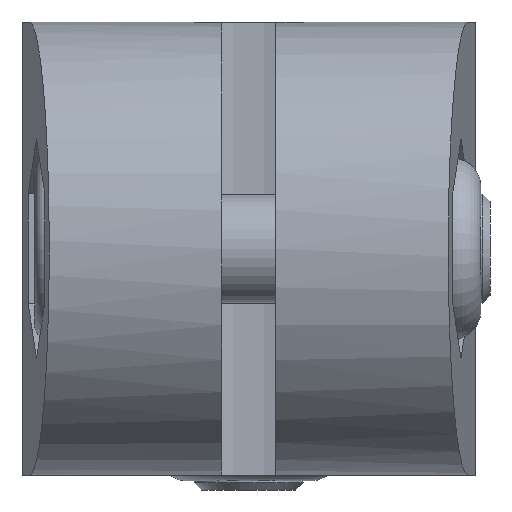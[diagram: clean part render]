
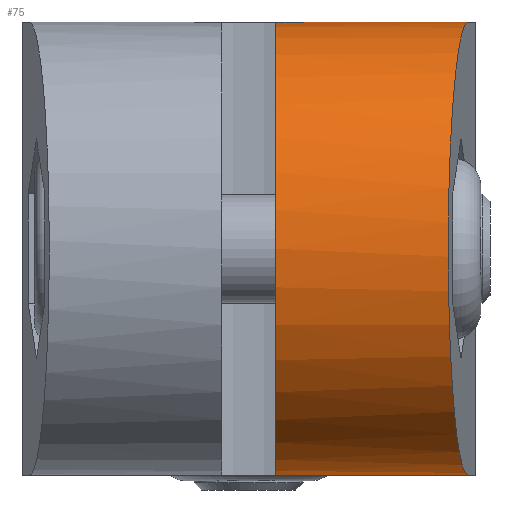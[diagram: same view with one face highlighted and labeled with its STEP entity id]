
A CAD part, left-side view. The second image highlights one B-rep face of the part: STEP entity #75.
In plain terms, the highlighted cylindrical face has radius 12.5 mm (diameter 25 mm), a partial arc.
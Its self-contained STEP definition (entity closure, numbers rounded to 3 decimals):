
#75 = ADVANCED_FACE( '', ( #192 ), #193, .T. );
#192 = FACE_OUTER_BOUND( '', #462, .T. );
#193 = CYLINDRICAL_SURFACE( '', #463, 12.5 );
#462 = EDGE_LOOP( '', ( #732, #733, #734, #735, #736, #737 ) );
#463 = AXIS2_PLACEMENT_3D( '', #738, #739, #740 );
#732 = ORIENTED_EDGE( '', *, *, #1592, .F. );
#733 = ORIENTED_EDGE( '', *, *, #1593, .F. );
#734 = ORIENTED_EDGE( '', *, *, #1594, .T. );
#735 = ORIENTED_EDGE( '', *, *, #1595, .F. );
#736 = ORIENTED_EDGE( '', *, *, #1596, .T. );
#737 = ORIENTED_EDGE( '', *, *, #1597, .T. );
#738 = CARTESIAN_POINT( '', ( -9.5, 12.5, 0. ) );
#739 = DIRECTION( '', ( 0., 1., 0. ) );
#740 = DIRECTION( '', ( 0., 0., -1. ) );
#1592 = EDGE_CURVE( '', #1848, #1849, #1850, .F. );
#1593 = EDGE_CURVE( '', #1851, #1848, #1852, .T. );
#1594 = EDGE_CURVE( '', #1851, #1853, #1854, .T. );
#1595 = EDGE_CURVE( '', #1855, #1853, #1856, .F. );
#1596 = EDGE_CURVE( '', #1855, #1857, #1858, .T. );
#1597 = EDGE_CURVE( '', #1857, #1849, #1859, .T. );
#1848 = VERTEX_POINT( '', #2280 );
#1849 = VERTEX_POINT( '', #2281 );
#1850 = ELLIPSE( '', #2282, 12.548, 12.5 );
#1851 = VERTEX_POINT( '', #2283 );
#1852 = LINE( '', #2284, #2285 );
#1853 = VERTEX_POINT( '', #2286 );
#1854 = B_SPLINE_CURVE_WITH_KNOTS( '', 3, ( #2287, #2288, #2289, #2290 ), .UNSPECIFIED., .F., .F., ( 4, 4 ), ( 0., 0.002 ), .UNSPECIFIED. );
#1855 = VERTEX_POINT( '', #2291 );
#1856 = CIRCLE( '', #2292, 12.5 );
#1857 = VERTEX_POINT( '', #2293 );
#1858 = B_SPLINE_CURVE_WITH_KNOTS( '', 3, ( #2294, #2295, #2296, #2297 ), .UNSPECIFIED., .F., .F., ( 4, 4 ), ( 0., 0.002 ), .UNSPECIFIED. );
#1859 = LINE( '', #2298, #2299 );
#2280 = CARTESIAN_POINT( '', ( -9.5, -12.094, 12.5 ) );
#2281 = CARTESIAN_POINT( '', ( -9.5, -12.094, -12.5 ) );
#2282 = AXIS2_PLACEMENT_3D( '', #2924, #2925, #2926 );
#2283 = CARTESIAN_POINT( '', ( -9.5, -3.106, 12.5 ) );
#2284 = CARTESIAN_POINT( '', ( -9.5, 12.5, 12.5 ) );
#2285 = VECTOR( '', #2927, 1000. );
#2286 = CARTESIAN_POINT( '', ( -9.882, -1.5, 12.494 ) );
#2287 = CARTESIAN_POINT( '', ( -9.5, -3.106, 12.5 ) );
#2288 = CARTESIAN_POINT( '', ( -9.672, -2.582, 12.5 ) );
#2289 = CARTESIAN_POINT( '', ( -9.799, -2.046, 12.497 ) );
#2290 = CARTESIAN_POINT( '', ( -9.882, -1.5, 12.494 ) );
#2291 = CARTESIAN_POINT( '', ( -9.882, -1.5, -12.494 ) );
#2292 = AXIS2_PLACEMENT_3D( '', #2928, #2929, #2930 );
#2293 = CARTESIAN_POINT( '', ( -9.5, -3.106, -12.5 ) );
#2294 = CARTESIAN_POINT( '', ( -9.882, -1.5, -12.494 ) );
#2295 = CARTESIAN_POINT( '', ( -9.799, -2.046, -12.497 ) );
#2296 = CARTESIAN_POINT( '', ( -9.672, -2.582, -12.5 ) );
#2297 = CARTESIAN_POINT( '', ( -9.5, -3.106, -12.5 ) );
#2298 = CARTESIAN_POINT( '', ( -9.5, 12.5, -12.5 ) );
#2299 = VECTOR( '', #2931, 1000. );
#2924 = CARTESIAN_POINT( '', ( -9.5, -12.094, 0. ) );
#2925 = DIRECTION( '', ( 0.087, 0.996, 0. ) );
#2926 = DIRECTION( '', ( 0.996, -0.087, 0. ) );
#2927 = DIRECTION( '', ( 0., -1., 0. ) );
#2928 = CARTESIAN_POINT( '', ( -9.5, -1.5, 0. ) );
#2929 = DIRECTION( '', ( 0., -1., 0. ) );
#2930 = DIRECTION( '', ( 1., 0., 0. ) );
#2931 = DIRECTION( '', ( 0., -1., 0. ) );
